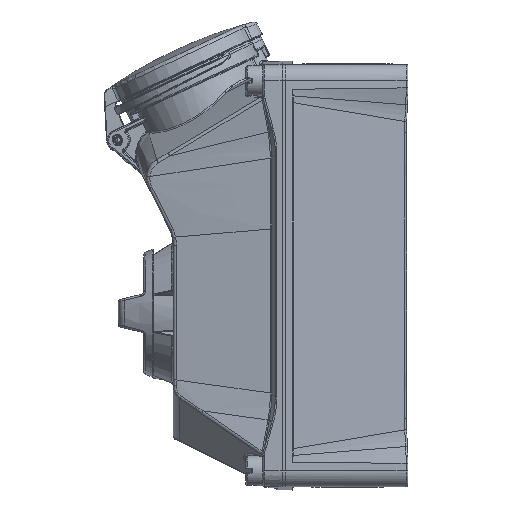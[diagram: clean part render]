
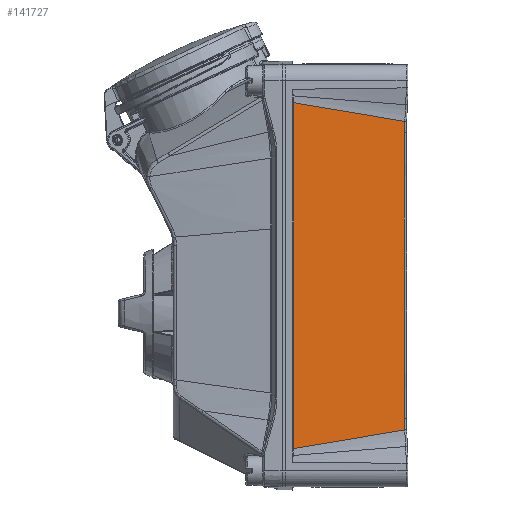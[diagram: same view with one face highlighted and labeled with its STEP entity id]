
A CAD part, left-side view. The second image highlights one B-rep face of the part: STEP entity #141727.
In plain terms, the highlighted free-form (B-spline) face has degree [5, 5] with [6, 6] control points.
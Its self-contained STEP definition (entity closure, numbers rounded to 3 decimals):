
#33942=CARTESIAN_POINT('',(-54.921,0.638,
-82.079));
#33943=CARTESIAN_POINT('',(-55.229,5.784,
-82.813));
#33944=CARTESIAN_POINT('',(-55.815,15.586,
-84.24));
#33945=CARTESIAN_POINT('',(-56.603,28.769,
-86.267));
#33946=CARTESIAN_POINT('',(-57.308,40.559,
-88.217));
#33947=CARTESIAN_POINT('',(-57.933,51.017,
-90.124));
#33948=CARTESIAN_POINT('',(-58.301,57.168,
-91.399));
#33949=CARTESIAN_POINT('',(-58.472,60.031,
-92.044));
#33951=DIRECTION('',(0.,0.,1.));
#33952=VECTOR('',#33951,184.088);
#33953=CARTESIAN_POINT('',(-58.472,60.031,
-92.044));
#33954=LINE('6468',#33953,#33952);
#33955=CARTESIAN_POINT('',(-58.472,60.031,
92.044));
#33956=CARTESIAN_POINT('',(-58.24,56.145,
91.169));
#33957=CARTESIAN_POINT('',(-57.743,47.836,
89.496));
#33958=CARTESIAN_POINT('',(-56.904,33.805,
87.066));
#33959=CARTESIAN_POINT('',(-55.97,18.186,
84.621));
#33960=CARTESIAN_POINT('',(-55.282,6.668,
82.939));
#33961=CARTESIAN_POINT('',(-54.921,0.638,
82.079));
#33963=CARTESIAN_POINT('',(-54.921,0.638,
82.079));
#33964=CARTESIAN_POINT('',(-54.923,0.671,
81.406));
#33965=CARTESIAN_POINT('',(-54.927,0.739,
80.061));
#33966=CARTESIAN_POINT('',(-54.933,0.839,
78.043));
#33967=CARTESIAN_POINT('',(-54.937,0.907,
76.698));
#33968=CARTESIAN_POINT('',(-54.939,0.94,
76.025));
#33970=DIRECTION('',(0.,0.,1.));
#33971=VECTOR('',#33970,152.05);
#33972=CARTESIAN_POINT('',(-54.939,0.94,
-76.025));
#33973=LINE('6527',#33972,#33971);
#33974=CARTESIAN_POINT('',(-54.939,0.94,
-76.025));
#33975=CARTESIAN_POINT('',(-54.937,0.907,
-76.698));
#33976=CARTESIAN_POINT('',(-54.933,0.839,
-78.043));
#33977=CARTESIAN_POINT('',(-54.927,0.739,
-80.061));
#33978=CARTESIAN_POINT('',(-54.923,0.671,
-81.406));
#33979=CARTESIAN_POINT('',(-54.921,0.638,
-82.079));
#61181=VERTEX_POINT('',#33942);
#61182=VERTEX_POINT('',#33949);
#61185=VERTEX_POINT('',#33955);
#61186=VERTEX_POINT('',#33961);
#61993=VERTEX_POINT('',#33968);
#61999=CARTESIAN_POINT('',(-54.939,0.94,
-76.025));
#62000=VERTEX_POINT('',#61999);
#141677=CARTESIAN_POINT('',(-54.883,0.,-86.5));
#141678=CARTESIAN_POINT('',(-55.606,12.1,-87.98));
#141679=CARTESIAN_POINT('',(-56.33,24.2,-89.46));
#141680=CARTESIAN_POINT('',(-57.053,36.3,-90.94));
#141681=CARTESIAN_POINT('',(-57.777,48.4,-92.42));
#141682=CARTESIAN_POINT('',(-58.5,60.5,-93.9));
#141683=CARTESIAN_POINT('',(-54.883,0.,-51.9));
#141684=CARTESIAN_POINT('',(-55.606,12.1,-52.788));
#141685=CARTESIAN_POINT('',(-56.33,24.2,-53.676));
#141686=CARTESIAN_POINT('',(-57.053,36.3,-54.564));
#141687=CARTESIAN_POINT('',(-57.777,48.4,-55.452));
#141688=CARTESIAN_POINT('',(-58.5,60.5,-56.34));
#141689=CARTESIAN_POINT('',(-54.883,0.,-17.3));
#141690=CARTESIAN_POINT('',(-55.606,12.1,-17.596));
#141691=CARTESIAN_POINT('',(-56.33,24.2,-17.892));
#141692=CARTESIAN_POINT('',(-57.053,36.3,-18.188));
#141693=CARTESIAN_POINT('',(-57.777,48.4,-18.484));
#141694=CARTESIAN_POINT('',(-58.5,60.5,-18.78));
#141695=CARTESIAN_POINT('',(-54.883,0.,17.3));
#141696=CARTESIAN_POINT('',(-55.606,12.1,17.596));
#141697=CARTESIAN_POINT('',(-56.33,24.2,17.892));
#141698=CARTESIAN_POINT('',(-57.053,36.3,18.188));
#141699=CARTESIAN_POINT('',(-57.777,48.4,18.484));
#141700=CARTESIAN_POINT('',(-58.5,60.5,18.78));
#141701=CARTESIAN_POINT('',(-54.883,0.,51.9));
#141702=CARTESIAN_POINT('',(-55.606,12.1,52.788));
#141703=CARTESIAN_POINT('',(-56.33,24.2,53.676));
#141704=CARTESIAN_POINT('',(-57.053,36.3,54.564));
#141705=CARTESIAN_POINT('',(-57.777,48.4,55.452));
#141706=CARTESIAN_POINT('',(-58.5,60.5,56.34));
#141707=CARTESIAN_POINT('',(-54.883,0.,86.5));
#141708=CARTESIAN_POINT('',(-55.606,12.1,87.98));
#141709=CARTESIAN_POINT('',(-56.33,24.2,89.46));
#141710=CARTESIAN_POINT('',(-57.053,36.3,90.94));
#141711=CARTESIAN_POINT('',(-57.777,48.4,92.42));
#141712=CARTESIAN_POINT('',(-58.5,60.5,93.9));
#141713=B_SPLINE_SURFACE_WITH_KNOTS('48',5,5,((#141677,#141678,#141679,#141680,
#141681,#141682),(#141683,#141684,#141685,#141686,#141687,#141688),(#141689,
#141690,#141691,#141692,#141693,#141694),(#141695,#141696,#141697,#141698,
#141699,#141700),(#141701,#141702,#141703,#141704,#141705,#141706),(#141707,
#141708,#141709,#141710,#141711,#141712)),.UNSPECIFIED.,.F.,.F.,.F.,(6,6),(6,6),
(0.,1.),(0.,1.),.UNSPECIFIED.);
#141714=ORIENTED_EDGE('5508',*,*,#141660,.T.);
#141716=ORIENTED_EDGE('6468',*,*,#141715,.T.);
#141718=ORIENTED_EDGE('5510',*,*,#141717,.T.);
#141720=ORIENTED_EDGE('6521',*,*,#141719,.T.);
#141722=ORIENTED_EDGE('6527',*,*,#141721,.F.);
#141724=ORIENTED_EDGE('6534',*,*,#141723,.T.);
#141725=EDGE_LOOP('48',(#141714,#141716,#141718,#141720,#141722,#141724));
#141726=FACE_OUTER_BOUND('48',#141725,.F.);
#33950=B_SPLINE_CURVE_WITH_KNOTS('5508',3,(#33942,#33943,#33944,#33945,#33946,
#33947,#33948,#33949),.UNSPECIFIED.,.F.,.F.,(4,1,1,1,1,4),(0.,0.2,0.4,
0.6,0.8,1.),.UNSPECIFIED.);
#33962=B_SPLINE_CURVE_WITH_KNOTS('5510',3,(#33955,#33956,#33957,#33958,#33959,
#33960,#33961),.UNSPECIFIED.,.F.,.F.,(4,1,1,1,4),(0.,0.25,0.5,0.75,
1.),.UNSPECIFIED.);
#33969=B_SPLINE_CURVE_WITH_KNOTS('6521',3,(#33963,#33964,#33965,#33966,#33967,
#33968),.UNSPECIFIED.,.F.,.F.,(4,1,1,4),(0.,0.333,
0.667,1.),.UNSPECIFIED.);
#33980=B_SPLINE_CURVE_WITH_KNOTS('6534',3,(#33974,#33975,#33976,#33977,#33978,
#33979),.UNSPECIFIED.,.F.,.F.,(4,1,1,4),(0.,0.333,
0.667,1.),.UNSPECIFIED.);
#141660=EDGE_CURVE('5508',#61181,#61182,#33950,.T.);
#141715=EDGE_CURVE('6468',#61182,#61185,#33954,.T.);
#141717=EDGE_CURVE('5510',#61185,#61186,#33962,.T.);
#141719=EDGE_CURVE('6521',#61186,#61993,#33969,.T.);
#141721=EDGE_CURVE('6527',#62000,#61993,#33973,.T.);
#141723=EDGE_CURVE('6534',#62000,#61181,#33980,.T.);
#141727=ADVANCED_FACE('48',(#141726),#141713,.T.);
